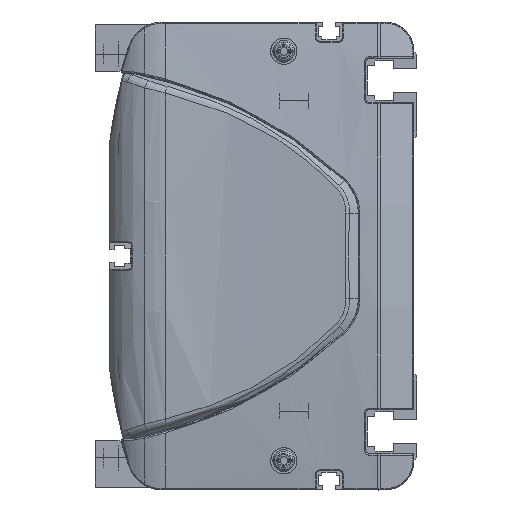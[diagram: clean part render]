
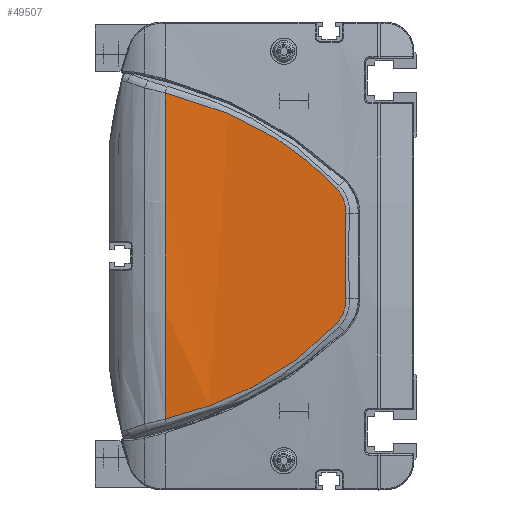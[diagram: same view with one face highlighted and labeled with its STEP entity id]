
A CAD part, left-side view. The second image highlights one B-rep face of the part: STEP entity #49507.
In plain terms, the highlighted cylindrical face has radius 600 mm (diameter 1200 mm), a partial arc.
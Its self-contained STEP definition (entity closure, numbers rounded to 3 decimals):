
#44537=CARTESIAN_POINT('',(-12.406,86.,
55.736));
#44538=CARTESIAN_POINT('',(-12.529,80.495,
54.41));
#44539=CARTESIAN_POINT('',(-12.828,69.636,
51.114));
#44540=CARTESIAN_POINT('',(-13.389,54.079,
44.179));
#44541=CARTESIAN_POINT('',(-14.01,39.709,
34.979));
#44542=CARTESIAN_POINT('',(-14.395,31.353,
27.243));
#44543=CARTESIAN_POINT('',(-14.555,27.451,
23.113));
#44545=CARTESIAN_POINT('',(-14.555,27.451,
23.113));
#44546=CARTESIAN_POINT('',(-14.641,25.336,
20.875));
#44547=CARTESIAN_POINT('',(-14.745,24.202,
17.745));
#44548=CARTESIAN_POINT('',(-14.821,24.351,
14.67));
#44550=CARTESIAN_POINT('',(-14.821,24.351,
14.67));
#44551=CARTESIAN_POINT('',(-14.9,24.51,
11.413));
#44552=CARTESIAN_POINT('',(-15.007,24.721,
4.895));
#44553=CARTESIAN_POINT('',(-15.007,24.721,
-4.895));
#44554=CARTESIAN_POINT('',(-14.9,24.51,
-11.413));
#44555=CARTESIAN_POINT('',(-14.821,24.351,
-14.67));
#44557=CARTESIAN_POINT('',(-14.821,24.351,
-14.67));
#44558=CARTESIAN_POINT('',(-14.745,24.202,
-17.745));
#44559=CARTESIAN_POINT('',(-14.641,25.337,
-20.876));
#44560=CARTESIAN_POINT('',(-14.555,27.451,
-23.113));
#44562=CARTESIAN_POINT('',(-14.555,27.451,
-23.113));
#44563=CARTESIAN_POINT('',(-14.395,31.353,
-27.243));
#44564=CARTESIAN_POINT('',(-14.01,39.709,
-34.979));
#44565=CARTESIAN_POINT('',(-13.389,54.079,
-44.179));
#44566=CARTESIAN_POINT('',(-12.828,69.636,
-51.114));
#44567=CARTESIAN_POINT('',(-12.529,80.495,
-54.41));
#44568=CARTESIAN_POINT('',(-12.406,86.,
-55.736));
#44570=CARTESIAN_POINT('',(585.,86.,0.));
#44571=DIRECTION('',(0.,1.,0.));
#44572=DIRECTION('',(-0.996,0.,-0.093));
#44573=AXIS2_PLACEMENT_3D('',#44570,#44571,#44572);
#44586=CARTESIAN_POINT('',(-12.406,86.,
55.736));
#45093=VERTEX_POINT('',#44586);
#45094=CARTESIAN_POINT('',(-12.406,86.,
-55.736));
#45095=VERTEX_POINT('',#45094);
#45147=VERTEX_POINT('',#44543);
#45148=VERTEX_POINT('',#44548);
#45149=VERTEX_POINT('',#44555);
#45150=VERTEX_POINT('',#44560);
#49489=CARTESIAN_POINT('',(585.,87.45,0.));
#49490=DIRECTION('',(0.,-1.,0.));
#49491=DIRECTION('',(0.,0.,-1.));
#49492=AXIS2_PLACEMENT_3D('',#49489,#49490,#49491);
#49493=CYLINDRICAL_SURFACE('',#49492,600.);
#49495=ORIENTED_EDGE('',*,*,#49494,.T.);
#49497=ORIENTED_EDGE('',*,*,#49496,.T.);
#49498=ORIENTED_EDGE('',*,*,#49479,.T.);
#49500=ORIENTED_EDGE('',*,*,#49499,.T.);
#49502=ORIENTED_EDGE('',*,*,#49501,.T.);
#49504=ORIENTED_EDGE('',*,*,#49503,.T.);
#49505=EDGE_LOOP('',(#49495,#49497,#49498,#49500,#49502,#49504));
#49506=FACE_OUTER_BOUND('',#49505,.F.);
#49507=ADVANCED_FACE('',(#49506),#49493,.T.);
#44544=B_SPLINE_CURVE_WITH_KNOTS('',3,(#44537,#44538,#44539,#44540,#44541,
#44542,#44543),.UNSPECIFIED.,.F.,.F.,(4,1,1,1,4),(0.,0.25,0.5,0.75,
1.),.UNSPECIFIED.);
#44549=B_SPLINE_CURVE_WITH_KNOTS('',3,(#44545,#44546,#44547,#44548),
.UNSPECIFIED.,.F.,.F.,(4,4),(0.,1.),.UNSPECIFIED.);
#44556=B_SPLINE_CURVE_WITH_KNOTS('',3,(#44550,#44551,#44552,#44553,#44554,
#44555),.UNSPECIFIED.,.F.,.F.,(4,1,1,4),(0.,0.333,
0.667,1.),.UNSPECIFIED.);
#44561=B_SPLINE_CURVE_WITH_KNOTS('',3,(#44557,#44558,#44559,#44560),
.UNSPECIFIED.,.F.,.F.,(4,4),(0.,1.),.UNSPECIFIED.);
#44569=B_SPLINE_CURVE_WITH_KNOTS('',3,(#44562,#44563,#44564,#44565,#44566,
#44567,#44568),.UNSPECIFIED.,.F.,.F.,(4,1,1,1,4),(0.,0.25,0.5,0.75,
1.),.UNSPECIFIED.);
#44574=CIRCLE('',#44573,600.);
#49479=EDGE_CURVE('',#45148,#45149,#44556,.T.);
#49494=EDGE_CURVE('',#45093,#45147,#44544,.T.);
#49496=EDGE_CURVE('',#45147,#45148,#44549,.T.);
#49499=EDGE_CURVE('',#45149,#45150,#44561,.T.);
#49501=EDGE_CURVE('',#45150,#45095,#44569,.T.);
#49503=EDGE_CURVE('',#45095,#45093,#44574,.T.);
